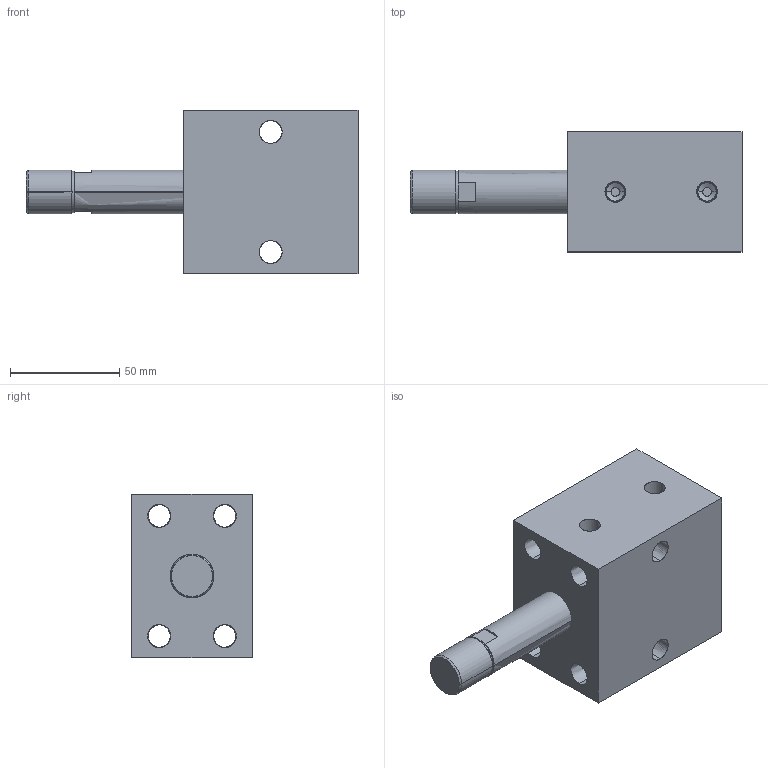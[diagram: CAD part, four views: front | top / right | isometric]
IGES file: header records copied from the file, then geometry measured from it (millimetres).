
Start section: SolidWorks IGES file using analytic representation for surfaces
Global section: file name: C:\Documents and Settings\rajib\Desktop\Rajib\BLOCK CYLINDER HYDRAULIC\0301-0306\IGS 0301-0306\0303.IGS; native system: SolidWorks 2007; preprocessor: SolidWorks 2007; author: rajib; date: 110121.100352; units: millimetre
Bounding box: 152 x 55 x 75 mm (x, y, z)
Surface area: 48711.5 mm2 (no closed solid volume)
Topology: 0 solids, 0 shells, 76 faces, 1704 edges, 1704 vertices
Faces by surface type: revolution 54, bspline 22
